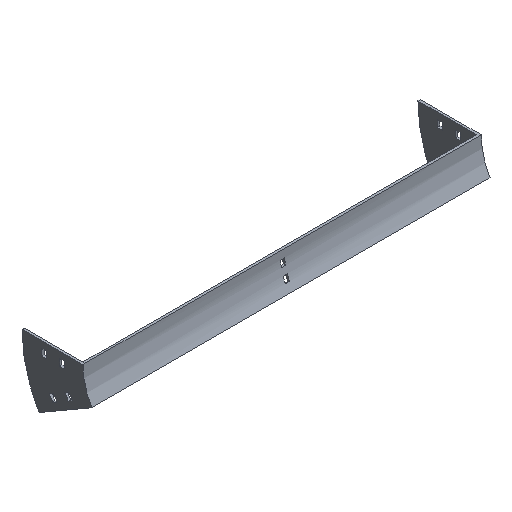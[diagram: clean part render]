
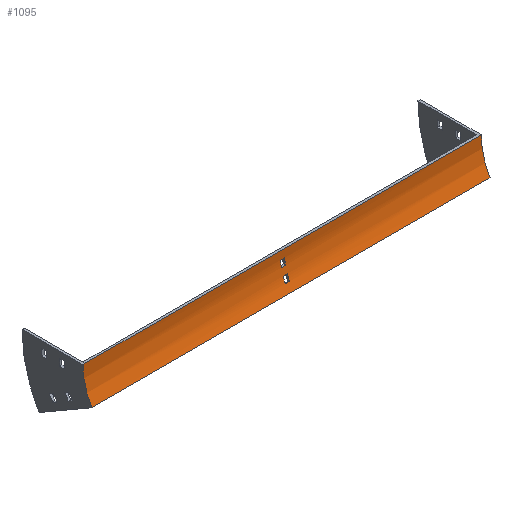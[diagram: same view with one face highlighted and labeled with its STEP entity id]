
A CAD part, isometric view. The second image highlights one B-rep face of the part: STEP entity #1095.
In plain terms, the highlighted cylindrical face has radius 100 mm (diameter 200 mm), a partial arc.
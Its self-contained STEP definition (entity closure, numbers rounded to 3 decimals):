
#1 = LINE ( 'NONE', #909, #527 ) ;
#3 = EDGE_CURVE ( 'NONE', #882, #1207, #515, .T. ) ;
#43 = AXIS2_PLACEMENT_3D ( 'NONE', #1007, #348, #857 ) ;
#44 = FACE_BOUND ( 'NONE', #1052, .T. ) ;
#62 = CARTESIAN_POINT ( 'NONE',  ( 302., -100., 0. ) ) ;
#97 = ORIENTED_EDGE ( 'NONE', *, *, #1199, .F. ) ;
#109 = EDGE_LOOP ( 'NONE', ( #584, #265, #1502, #111 ) ) ;
#111 = ORIENTED_EDGE ( 'NONE', *, *, #3, .T. ) ;
#118 = EDGE_CURVE ( 'NONE', #1207, #219, #641, .T. ) ;
#119 = VERTEX_POINT ( 'NONE', #789 ) ;
#157 = EDGE_CURVE ( 'NONE', #615, #421, #878, .T. ) ;
#174 = AXIS2_PLACEMENT_3D ( 'NONE', #1031, #232, #763 ) ;
#181 = FACE_BOUND ( 'NONE', #343, .T. ) ;
#185 = DIRECTION ( 'NONE',  ( 1., 0., 0. ) ) ;
#205 = LINE ( 'NONE', #353, #1538 ) ;
#219 = VERTEX_POINT ( 'NONE', #453 ) ;
#232 = DIRECTION ( 'NONE',  ( 1., 0., 0. ) ) ;
#247 = CIRCLE ( 'NONE', #1686, 100. ) ;
#263 = CARTESIAN_POINT ( 'NONE',  ( 302., 0., 0. ) ) ;
#265 = ORIENTED_EDGE ( 'NONE', *, *, #403, .F. ) ;
#280 = CARTESIAN_POINT ( 'NONE',  ( -3.25, -4.829, -30.699 ) ) ;
#288 = DIRECTION ( 'NONE',  ( 1., 0., 0. ) ) ;
#343 = EDGE_LOOP ( 'NONE', ( #682, #1008, #597, #1195 ) ) ;
#348 = DIRECTION ( 'NONE',  ( -1., 0., 0. ) ) ;
#351 = CARTESIAN_POINT ( 'NONE',  ( 302., 0., 0. ) ) ;
#353 = CARTESIAN_POINT ( 'NONE',  ( 302., -13.397, -50. ) ) ;
#393 = CARTESIAN_POINT ( 'NONE',  ( -3.25, -8.023, -39.246 ) ) ;
#403 = EDGE_CURVE ( 'NONE', #119, #219, #205, .T. ) ;
#421 = VERTEX_POINT ( 'NONE', #1385 ) ;
#428 = DIRECTION ( 'NONE',  ( 0., 0., 1. ) ) ;
#453 = CARTESIAN_POINT ( 'NONE',  ( -302., -13.397, -50. ) ) ;
#503 = CIRCLE ( 'NONE', #43, 100. ) ;
#515 = LINE ( 'NONE', #351, #1646 ) ;
#523 = DIRECTION ( 'NONE',  ( 1., 0., 0. ) ) ;
#527 = VECTOR ( 'NONE', #523, 1000. ) ;
#529 = AXIS2_PLACEMENT_3D ( 'NONE', #1241, #185, #617 ) ;
#557 = EDGE_CURVE ( 'NONE', #1675, #963, #1, .T. ) ;
#558 = CYLINDRICAL_SURFACE ( 'NONE', #1352, 100. ) ;
#584 = ORIENTED_EDGE ( 'NONE', *, *, #118, .T. ) ;
#597 = ORIENTED_EDGE ( 'NONE', *, *, #1419, .T. ) ;
#603 = CARTESIAN_POINT ( 'NONE',  ( 3.25, -100., 0. ) ) ;
#607 = ORIENTED_EDGE ( 'NONE', *, *, #1477, .F. ) ;
#615 = VERTEX_POINT ( 'NONE', #706 ) ;
#617 = DIRECTION ( 'NONE',  ( 0., 0., 1. ) ) ;
#640 = ORIENTED_EDGE ( 'NONE', *, *, #557, .F. ) ;
#641 = CIRCLE ( 'NONE', #1588, 100. ) ;
#666 = CARTESIAN_POINT ( 'NONE',  ( 3.25, -8.023, -39.246 ) ) ;
#682 = ORIENTED_EDGE ( 'NONE', *, *, #157, .T. ) ;
#702 = VECTOR ( 'NONE', #288, 1000. ) ;
#706 = CARTESIAN_POINT ( 'NONE',  ( 3.25, -2.23, -21. ) ) ;
#724 = VECTOR ( 'NONE', #992, 1000. ) ;
#733 = DIRECTION ( 'NONE',  ( -1., 0., 0. ) ) ;
#763 = DIRECTION ( 'NONE',  ( 0., 0., 1. ) ) ;
#767 = CARTESIAN_POINT ( 'NONE',  ( 3.25, -4.829, -30.699 ) ) ;
#789 = CARTESIAN_POINT ( 'NONE',  ( 302., -13.397, -50. ) ) ;
#841 = FACE_OUTER_BOUND ( 'NONE', #109, .T. ) ;
#857 = DIRECTION ( 'NONE',  ( 0., 0., 1. ) ) ;
#869 = CIRCLE ( 'NONE', #1516, 100. ) ;
#878 = LINE ( 'NONE', #1395, #970 ) ;
#882 = VERTEX_POINT ( 'NONE', #263 ) ;
#884 = VERTEX_POINT ( 'NONE', #1423 ) ;
#909 = CARTESIAN_POINT ( 'NONE',  ( 302., -8.023, -39.246 ) ) ;
#912 = DIRECTION ( 'NONE',  ( 0., 0., 1. ) ) ;
#921 = CIRCLE ( 'NONE', #174, 100. ) ;
#932 = DIRECTION ( 'NONE',  ( -1., 0., 0. ) ) ;
#940 = CARTESIAN_POINT ( 'NONE',  ( -302., -100., 0. ) ) ;
#963 = VERTEX_POINT ( 'NONE', #666 ) ;
#970 = VECTOR ( 'NONE', #1673, 1000. ) ;
#992 = DIRECTION ( 'NONE',  ( -1., 0., 0. ) ) ;
#1008 = ORIENTED_EDGE ( 'NONE', *, *, #1122, .T. ) ;
#1007 = CARTESIAN_POINT ( 'NONE',  ( 302., -100., 0. ) ) ;
#1031 = CARTESIAN_POINT ( 'NONE',  ( 3.25, -100., 0. ) ) ;
#1052 = EDGE_LOOP ( 'NONE', ( #607, #97, #1471, #640 ) ) ;
#1095 = ADVANCED_FACE ( 'NONE', ( #841, #181, #44 ), #558, .F. ) ;
#1097 = DIRECTION ( 'NONE',  ( 0., 0., -1. ) ) ;
#1122 = EDGE_CURVE ( 'NONE', #421, #1343, #1172, .T. ) ;
#1124 = LINE ( 'NONE', #1637, #724 ) ;
#1133 = DIRECTION ( 'NONE',  ( 0., 0., -1. ) ) ;
#1152 = EDGE_CURVE ( 'NONE', #882, #119, #503, .T. ) ;
#1172 = CIRCLE ( 'NONE', #529, 100. ) ;
#1186 = CARTESIAN_POINT ( 'NONE',  ( -3.25, -0.723, -12. ) ) ;
#1191 = CARTESIAN_POINT ( 'NONE',  ( 302., -0.723, -12. ) ) ;
#1195 = ORIENTED_EDGE ( 'NONE', *, *, #1598, .T. ) ;
#1199 = EDGE_CURVE ( 'NONE', #1610, #1459, #1124, .T. ) ;
#1207 = VERTEX_POINT ( 'NONE', #1529 ) ;
#1208 = DIRECTION ( 'NONE',  ( -1., 0., 0. ) ) ;
#1241 = CARTESIAN_POINT ( 'NONE',  ( -3.25, -100., 0. ) ) ;
#1287 = DIRECTION ( 'NONE',  ( -1., 0., 0. ) ) ;
#1343 = VERTEX_POINT ( 'NONE', #1186 ) ;
#1345 = EDGE_CURVE ( 'NONE', #963, #1610, #921, .T. ) ;
#1352 = AXIS2_PLACEMENT_3D ( 'NONE', #62, #1603, #428 ) ;
#1385 = CARTESIAN_POINT ( 'NONE',  ( -3.25, -2.23, -21. ) ) ;
#1395 = CARTESIAN_POINT ( 'NONE',  ( 302., -2.23, -21. ) ) ;
#1419 = EDGE_CURVE ( 'NONE', #1343, #884, #1474, .T. ) ;
#1423 = CARTESIAN_POINT ( 'NONE',  ( 3.25, -0.723, -12. ) ) ;
#1459 = VERTEX_POINT ( 'NONE', #280 ) ;
#1465 = CARTESIAN_POINT ( 'NONE',  ( -3.25, -100., 0. ) ) ;
#1471 = ORIENTED_EDGE ( 'NONE', *, *, #1345, .F. ) ;
#1474 = LINE ( 'NONE', #1191, #702 ) ;
#1477 = EDGE_CURVE ( 'NONE', #1459, #1675, #869, .T. ) ;
#1502 = ORIENTED_EDGE ( 'NONE', *, *, #1152, .F. ) ;
#1516 = AXIS2_PLACEMENT_3D ( 'NONE', #1465, #1208, #1097 ) ;
#1529 = CARTESIAN_POINT ( 'NONE',  ( -302., 0., 0. ) ) ;
#1538 = VECTOR ( 'NONE', #733, 1000. ) ;
#1588 = AXIS2_PLACEMENT_3D ( 'NONE', #940, #932, #912 ) ;
#1598 = EDGE_CURVE ( 'NONE', #884, #615, #247, .T. ) ;
#1603 = DIRECTION ( 'NONE',  ( -1., 0., 0. ) ) ;
#1610 = VERTEX_POINT ( 'NONE', #767 ) ;
#1628 = DIRECTION ( 'NONE',  ( -1., 0., 0. ) ) ;
#1637 = CARTESIAN_POINT ( 'NONE',  ( 302., -4.829, -30.699 ) ) ;
#1646 = VECTOR ( 'NONE', #1287, 1000. ) ;
#1673 = DIRECTION ( 'NONE',  ( -1., 0., 0. ) ) ;
#1675 = VERTEX_POINT ( 'NONE', #393 ) ;
#1686 = AXIS2_PLACEMENT_3D ( 'NONE', #603, #1628, #1133 ) ;
